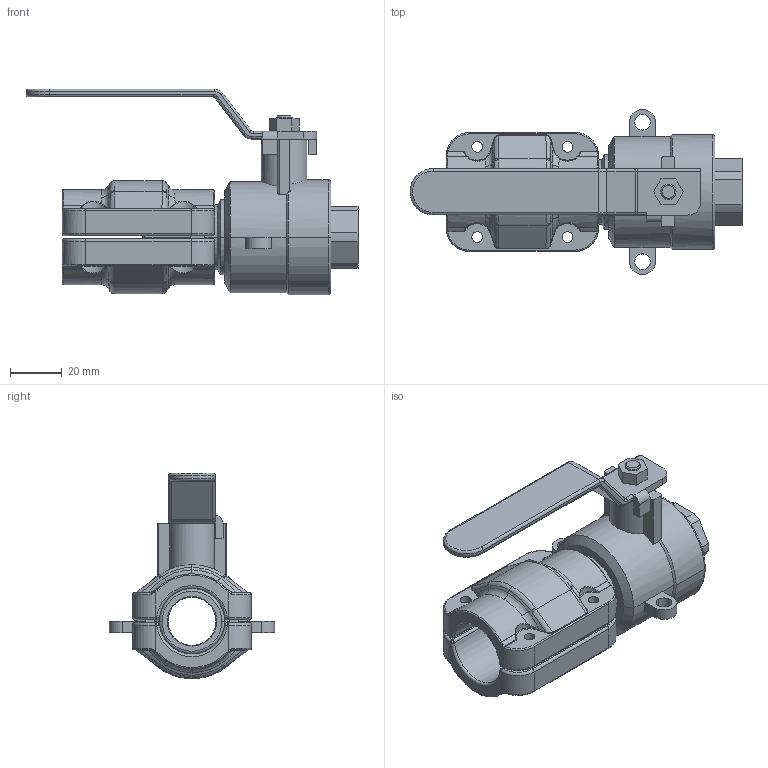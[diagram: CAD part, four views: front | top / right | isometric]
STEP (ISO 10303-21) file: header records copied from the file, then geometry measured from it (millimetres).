
FILE_DESCRIPTION((''),'2;1');
FILE_NAME('AU15245199_ASM','2017-05-14T',('li'),(''),'PRO/ENGINEER BY PARAMETRIC TECHNOLOGY CORPORATION, 2009360','PRO/ENGINEER BY PARAMETRIC TECHNOLOGY CORPORATION, 2009360','');
FILE_SCHEMA(('AUTOMOTIVE_DESIGN { 1 0 10303 214 1 1 1 1 }'));
Length unit declared in the file: millimetre
Products named in the file (5): AU15245100; 201520020000_23; 201520020001_10; 2015200200_ASM; AU15245199_ASM
Assembly tree (4 placements, depth 3):
  AU15245199_ASM
    AU15245100
    2015200200_ASM
      201520020000_23
      201520020001_10
Bounding box: 128.65 x 64.08 x 79.64 mm (x, y, z)
Volume: 95004.8 mm3; surface area: 44078.7 mm2
Topology: 3 solids, 3 shells, 461 faces, 1094 edges, 645 vertices
Faces by surface type: cylinder 155, bspline 144, plane 83, torus 54, cone 17, sphere 8
Entity records: 21947 total; most frequent: CARTESIAN_POINT 8659, ORIENTED_EDGE 2188, DIRECTION 1789, PRESENTATION_STYLE_ASSIGNMENT 1097, STYLED_ITEM 1097, CURVE_STYLE 1094, EDGE_CURVE 1094, AXIS2_PLACEMENT_3D 718
